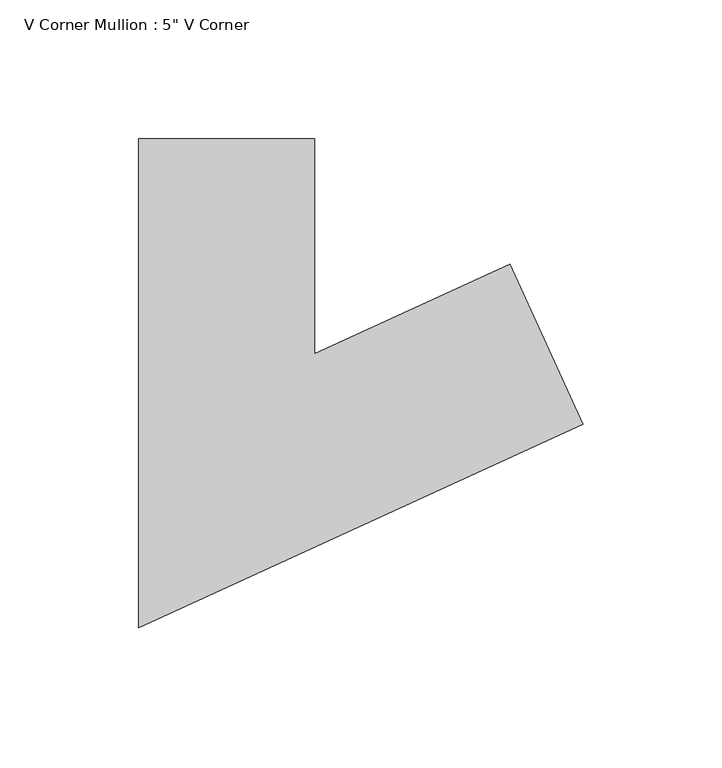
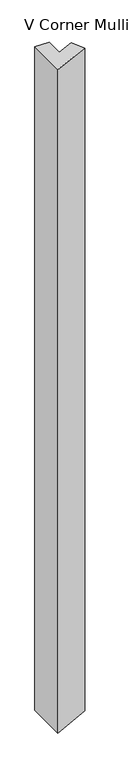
"""IFC4 building model written with IfcOpenShell, lengths in millimetres: member geometry."""

from ifc_helpers import new_model, si_unit, origin, place, context, project, spatial, faceted_brep, source, transform, mapped, element, save


def member_a17a7d9a(model_context):
    return source(origin(), model_context, "Body", "Brep", [
        faceted_brep([(87.9205542, -39.5195451, 0.0), (61.49523, 18.2208415, 0.0), (-9.0228811, -14.0523047, 0.0), (-9.0228811, 63.5, 0.0), (-72.5228811, 63.5, 0.0), (-72.5228811, -112.9476953, 0.0), (87.9205542, -39.5195451, -3104.9997836), (61.49523, 18.2208415, -3105.8184072), (-9.0228811, -14.0523047, -3108.0029706), (-9.0228811, 63.5, -3108.0029706), (-72.5228811, 63.5, -3109.9701216), (-72.5228811, -112.9476953, -3109.9701216)], [[[0, 1, 2, 3, 4, 5]], [[1, 0, 6, 7]], [[2, 1, 7, 8]], [[3, 2, 8, 9]], [[4, 3, 9, 10]], [[5, 4, 10, 11]], [[0, 5, 11, 6]], [[6, 11, 10, 9, 8, 7]]]),
    ])


if __name__ == "__main__":
    model = new_model("IFC4")
    model_context = context("Model", 3, world=origin())
    ifc_project = project(units=[si_unit("LENGTHUNIT", "METRE", prefix="MILLI")], contexts=[model_context])
    site = spatial("IfcSite", under=ifc_project)
    building = spatial("IfcBuilding", under=site)
    placement = place(None, origin())
    member_shape = member_a17a7d9a(model_context)
    element("IfcMember", 1, ObjectType="V Corner Mullion : 5\" V Corner", at=placement, inside=building, context=model_context, shape_type="MappedRepresentation", body=[
        mapped(member_shape, transform((0.0, 0.0, 0.0), x_axis=(1.0, 0.0, 0.0), y_axis=(0.0, 1.0, 0.0), z_axis=(0.0, 0.0, 1.0))),
    ])
    save(model, "model.ifc")
